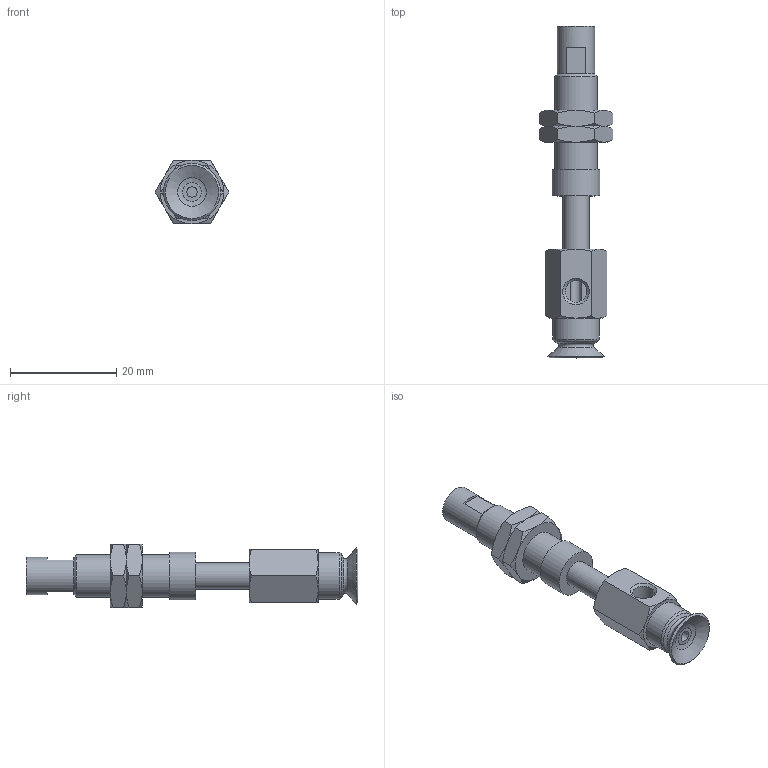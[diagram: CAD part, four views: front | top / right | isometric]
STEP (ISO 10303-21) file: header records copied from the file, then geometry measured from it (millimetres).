
FILE_DESCRIPTION(('STEP AP203'),'1');
FILE_NAME('.stp','2025-04-09T06:50:23',(' '),(' '),'Spatial InterOp 3D',' ',' ');
FILE_SCHEMA(('CONFIG_CONTROL_DESIGN'));
Length unit declared in the file: millimetre
Products named in the file (6): BNABPFYS-10A-10-※; CONNECTOR-10A-10; Nut-10A-10-s; NAPFTS-10A-10-FBODY; NAPFTS-10A-10-MBODY; BPFG-10A-※
Assembly tree (6 placements, depth 2):
  BNABPFYS-10A-10-※
    CONNECTOR-10A-10
    Nut-10A-10-s  x2
    NAPFTS-10A-10-FBODY
    NAPFTS-10A-10-MBODY
    BPFG-10A-※
Bounding box: 13.86 x 62.5 x 12 mm (x, y, z)
Volume: 3493.7 mm3; surface area: 4193.2 mm2
Topology: 6 solids, 6 shells, 129 faces, 270 edges, 163 vertices
Faces by surface type: plane 52, cone 51, cylinder 17, torus 8, bspline 1
Full cylindrical faces by diameter (mm): 2 x2, 4 x2, 4.134 x2, 5 x3, 6 x2, 7 x1, 7.188 x2, 8 x1, 8.7 x1, 9 x1
Entity records: 3131 total; most frequent: CARTESIAN_POINT 792, DIRECTION 430, ORIENTED_EDGE 354, AXIS2_PLACEMENT_3D 195, EDGE_CURVE 177, EDGE_LOOP 162, FACE_OUTER_BOUND 131, VERTEX_POINT 127
